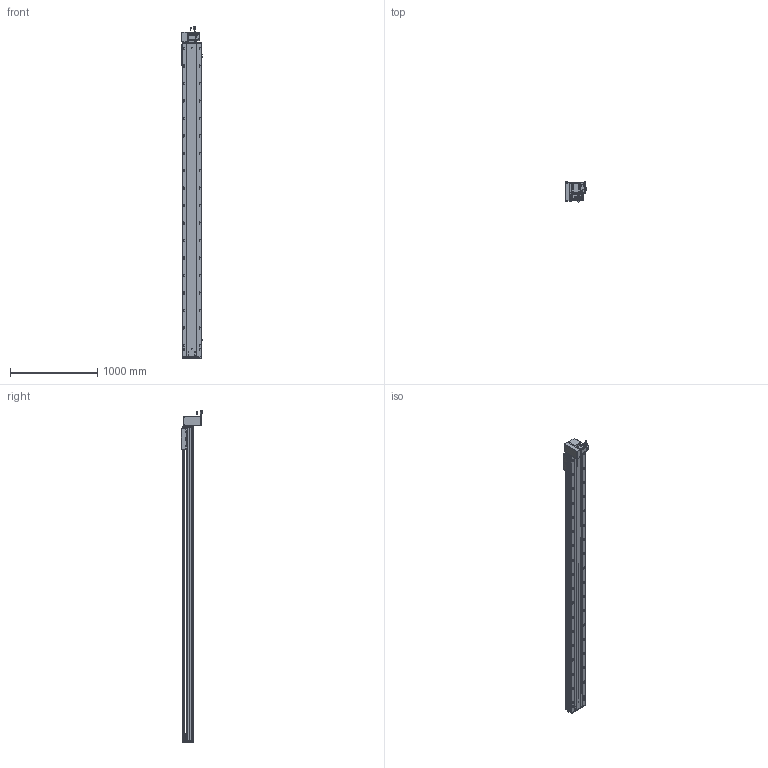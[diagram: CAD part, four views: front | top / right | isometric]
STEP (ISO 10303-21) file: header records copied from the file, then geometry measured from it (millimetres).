
FILE_DESCRIPTION (( 'STEP AP203' ), '1' );
FILE_NAME ('RY220-T-300-DL.SLDASM_3250.step', '2022-07-25T07:55:51', ( '' ), ( '' ), 'SwSTEP 2.0', 'SolidWorks 2016', '' );
FILE_SCHEMA (( 'CONFIG_CONTROL_DESIGN' ));
Length unit declared in the file: millimetre
Products named in the file (14): 滅袉蝶18-15; 怢湛750W_ECMA-CX0807ES; RY220-同步轮副支撑座6304×2; 110A-T-肮祭謫釱傷裔; RY220翋肮祭謫裔啣; RY220翋肮祭謫釱; RY220-T-蛌殏萇儂假蚾啣(750W); RY220-T菁釱-300_3250; RY220-T-300-DL.SLDASM_3250; RY220-俋离672覜茼んえ; RY220-T-300-奻裔啣_3250; 覜茼ん672; RY220圉猾敕々湍臏賑輸; RY220-T-湍謫欶(鍼踢)
Assembly tree (18 placements, depth 2):
  RY220-T-300-DL.SLDASM_3250
    RY220-T菁釱-300_3250
    RY220翋肮祭謫釱
    覜茼ん672  x3
    RY220圉猾敕々湍臏賑輸
    RY220-T-300-奻裔啣_3250
    RY220-俋离672覜茼んえ
    滅袉蝶18-15  x3
    RY220翋肮祭謫裔啣  x2
    110A-T-肮祭謫釱傷裔
    怢湛750W_ECMA-CX0807ES
    RY220-T-湍謫欶(鍼踢)
    RY220-T-蛌殏萇儂假蚾啣(750W)
    RY220-同步轮副支撑座6304×2
Bounding box: 239.7 x 240.74 x 3803.27 mm (x, y, z)
Volume: 26817909.6 mm3; surface area: 8327128.1 mm2
Topology: 19 solids, 19 shells, 3088 faces, 8551 edges, 5344 vertices
Faces by surface type: cylinder 1540, plane 1069, cone 397, bspline 56, sphere 16, torus 10
Entity records: 103139 total; most frequent: CARTESIAN_POINT 29063, ORIENTED_EDGE 15290, DIRECTION 14820, EDGE_CURVE 7645, AXIS2_PLACEMENT_3D 5370, VERTEX_POINT 4968, LINE 4080, VECTOR 4080
